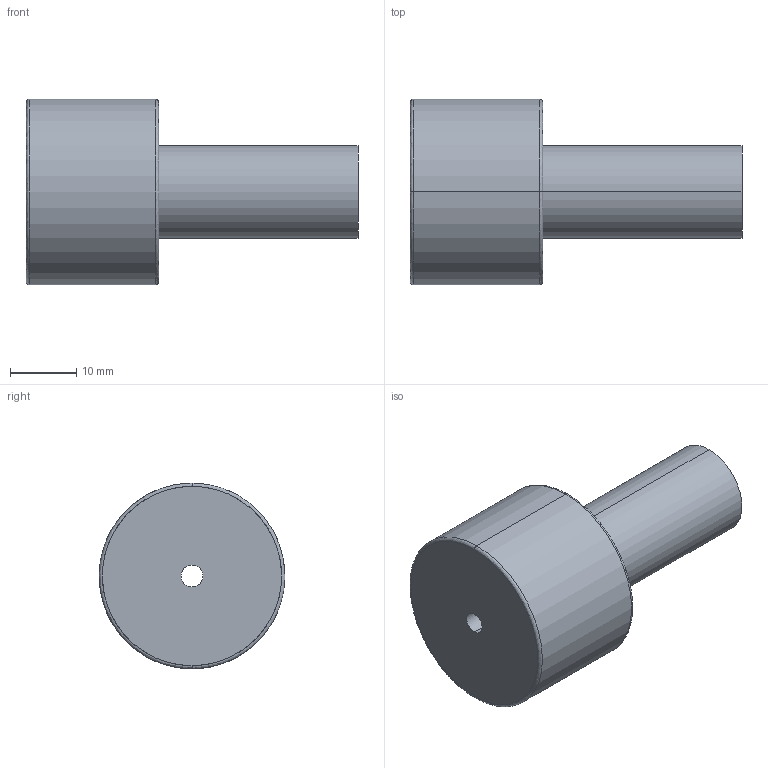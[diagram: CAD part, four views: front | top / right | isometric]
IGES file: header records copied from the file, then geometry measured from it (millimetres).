
Start section: START RECORD GO HERE.
Global section: file name: 367-14X50.igs; native system: DASSAULT SYSTEMES CATIA V5 R20 - www.3ds.com; preprocessor: CATIA Version 5 Release 20 ; author: Utente; organization: NB04-ASUS; date: 20210324.161854; units: millimetre
Bounding box: 50 x 28 x 28 mm (x, y, z)
Surface area: 4960.5 mm2 (no closed solid volume)
Topology: 0 solids, 0 shells, 13 faces, 84 edges, 84 vertices
Faces by surface type: revolution 10, plane 3
